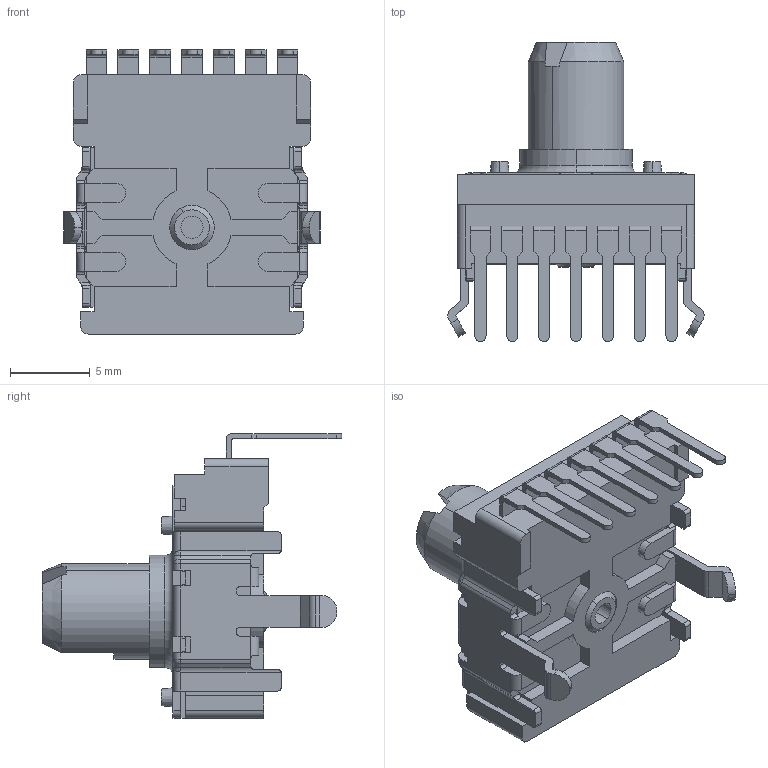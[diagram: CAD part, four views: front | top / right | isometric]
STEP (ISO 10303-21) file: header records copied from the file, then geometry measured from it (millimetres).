
FILE_DESCRIPTION (( 'STEP AP203' ), '1' );
FILE_NAME ('P140KH-F15.STEP', '2026-09-15T19:09:37', ( '' ), ( '' ), 'SwSTEP 2.0', 'SolidWorks 2026', '' );
FILE_SCHEMA (( 'CONFIG_CONTROL_DESIGN' ));
Length unit declared in the file: millimetre
Products named in the file (7): spring_plate; Housing; F15; KH bracket; KH-housing; V-terminal; P140KH-F15
Assembly tree (12 placements, depth 3):
  P140KH-F15
    KH-housing
      Housing
      V-terminal  x7
    F15
    spring_plate
    KH bracket
Bounding box: 16.1 x 18.8 x 17.85 mm (x, y, z)
Volume: 1182.8 mm3; surface area: 2551.6 mm2
Topology: 11 solids, 11 shells, 595 faces, 1632 edges, 1052 vertices
Faces by surface type: plane 376, cylinder 189, bspline 12, cone 8, torus 6, sphere 4
Entity records: 17299 total; most frequent: CARTESIAN_POINT 3227, ORIENTED_EDGE 2816, DIRECTION 2696, EDGE_CURVE 1408, VECTOR 998, LINE 998, VERTEX_POINT 908, AXIS2_PLACEMENT_3D 849
